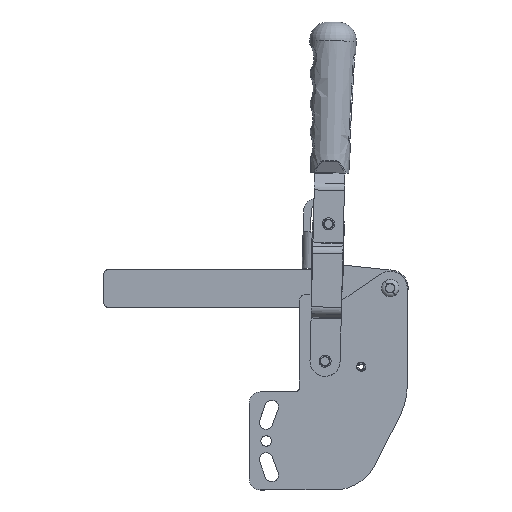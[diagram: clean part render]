
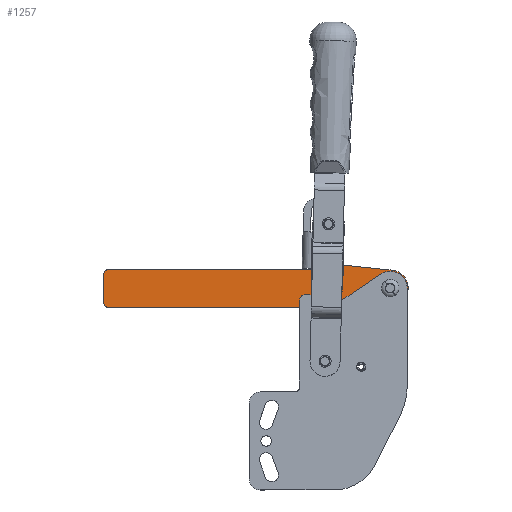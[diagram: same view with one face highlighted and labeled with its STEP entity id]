
A CAD part, top view. The second image highlights one B-rep face of the part: STEP entity #1257.
In plain terms, the highlighted planar face has unit normal (0, 0, 1).
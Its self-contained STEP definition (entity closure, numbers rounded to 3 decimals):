
#27 = CARTESIAN_POINT ( 'NONE',  ( 48., 0., 0. ) ) ;
#96 = ORIENTED_EDGE ( 'NONE', *, *, #781, .T. ) ;
#244 = LINE ( 'NONE', #11025, #20734 ) ;
#630 = CIRCLE ( 'NONE', #15458, 6. ) ;
#767 = CARTESIAN_POINT ( 'NONE',  ( 46.228, -13.846, 0. ) ) ;
#781 = EDGE_CURVE ( 'NONE', #9876, #5087, #15355, .T. ) ;
#918 = VERTEX_POINT ( 'NONE', #27 ) ;
#987 = CARTESIAN_POINT ( 'NONE',  ( 190., 9.5, 0. ) ) ;
#1257 = ADVANCED_FACE ( 'NONE', ( #5780, #1950, #21303 ), #3577, .F. ) ;
#1401 = CARTESIAN_POINT ( 'NONE',  ( 36.535, 15.912, 0. ) ) ;
#1420 = AXIS2_PLACEMENT_3D ( 'NONE', #3205, #22460, #4839 ) ;
#1754 = DIRECTION ( 'NONE',  ( -1., 0., 0. ) ) ;
#1950 = FACE_BOUND ( 'NONE', #2667, .T. ) ;
#2411 = CARTESIAN_POINT ( 'NONE',  ( -6., 0., 0. ) ) ;
#2419 = VERTEX_POINT ( 'NONE', #1401 ) ;
#2542 = ORIENTED_EDGE ( 'NONE', *, *, #7101, .T. ) ;
#2667 = EDGE_LOOP ( 'NONE', ( #4671, #10221 ) ) ;
#2760 = DIRECTION ( 'NONE',  ( 0., 0., 1. ) ) ;
#2828 = DIRECTION ( 'NONE',  ( 0.995, -0.105, 0. ) ) ;
#2873 = CARTESIAN_POINT ( 'NONE',  ( 51.239, -22.5, 0. ) ) ;
#3170 = ORIENTED_EDGE ( 'NONE', *, *, #22835, .T. ) ;
#3205 = CARTESIAN_POINT ( 'NONE',  ( 187., 9.5, 0. ) ) ;
#3577 = PLANE ( 'NONE',  #8979 ) ;
#3929 = DIRECTION ( 'NONE',  ( 0., 0., -1. ) ) ;
#4356 = DIRECTION ( 'NONE',  ( 0., 0., 1. ) ) ;
#4369 = AXIS2_PLACEMENT_3D ( 'NONE', #15022, #4356, #9578 ) ;
#4448 = AXIS2_PLACEMENT_3D ( 'NONE', #7249, #5523, #17816 ) ;
#4671 = ORIENTED_EDGE ( 'NONE', *, *, #7048, .F. ) ;
#4674 = CARTESIAN_POINT ( 'NONE',  ( 190., -9.5, 0. ) ) ;
#4783 = AXIS2_PLACEMENT_3D ( 'NONE', #13825, #13938, #20657 ) ;
#4832 = CARTESIAN_POINT ( 'NONE',  ( 6., 0., 0. ) ) ;
#4839 = DIRECTION ( 'NONE',  ( -1., 0., 0. ) ) ;
#4880 = ORIENTED_EDGE ( 'NONE', *, *, #12782, .T. ) ;
#5087 = VERTEX_POINT ( 'NONE', #9883 ) ;
#5255 = ORIENTED_EDGE ( 'NONE', *, *, #8933, .T. ) ;
#5262 = CARTESIAN_POINT ( 'NONE',  ( 187., -9.5, 0. ) ) ;
#5329 = EDGE_CURVE ( 'NONE', #22771, #8676, #22621, .T. ) ;
#5452 = VERTEX_POINT ( 'NONE', #21457 ) ;
#5472 = CIRCLE ( 'NONE', #8432, 12. ) ;
#5523 = DIRECTION ( 'NONE',  ( 0., 0., 1. ) ) ;
#5588 = CARTESIAN_POINT ( 'NONE',  ( 38.21, 0., 0. ) ) ;
#5780 = FACE_BOUND ( 'NONE', #6025, .T. ) ;
#5936 = EDGE_CURVE ( 'NONE', #8344, #19545, #12999, .T. ) ;
#6003 = CARTESIAN_POINT ( 'NONE',  ( 187., -12.5, 0. ) ) ;
#6025 = EDGE_LOOP ( 'NONE', ( #19232, #8790 ) ) ;
#6122 = DIRECTION ( 'NONE',  ( 1., 0., 0. ) ) ;
#6348 = EDGE_CURVE ( 'NONE', #16268, #918, #630, .T. ) ;
#6499 = AXIS2_PLACEMENT_3D ( 'NONE', #9608, #2760, #6122 ) ;
#6544 = CARTESIAN_POINT ( 'NONE',  ( -1.256, 11.934, 0. ) ) ;
#6775 = DIRECTION ( 'NONE',  ( 1., 0., 0. ) ) ;
#6981 = VERTEX_POINT ( 'NONE', #2411 ) ;
#7017 = VERTEX_POINT ( 'NONE', #6003 ) ;
#7048 = EDGE_CURVE ( 'NONE', #918, #16268, #8802, .T. ) ;
#7101 = EDGE_CURVE ( 'NONE', #5452, #9876, #5472, .T. ) ;
#7151 = EDGE_LOOP ( 'NONE', ( #4880, #13762, #8124, #3170, #20884, #2542, #96, #5255, #14390, #22286, #7243, #7485 ) ) ;
#7159 = VERTEX_POINT ( 'NONE', #987 ) ;
#7225 = CARTESIAN_POINT ( 'NONE',  ( 46.228, 13.846, 0. ) ) ;
#7243 = ORIENTED_EDGE ( 'NONE', *, *, #17294, .T. ) ;
#7249 = CARTESIAN_POINT ( 'NONE',  ( 0., 0., 0. ) ) ;
#7377 = CIRCLE ( 'NONE', #4783, 16. ) ;
#7485 = ORIENTED_EDGE ( 'NONE', *, *, #21507, .T. ) ;
#7711 = DIRECTION ( 'NONE',  ( 0., 0., 1. ) ) ;
#7858 = EDGE_CURVE ( 'NONE', #15520, #6981, #15046, .T. ) ;
#7949 = VECTOR ( 'NONE', #6775, 1000. ) ;
#8091 = CARTESIAN_POINT ( 'NONE',  ( -1.256, -11.934, 0. ) ) ;
#8124 = ORIENTED_EDGE ( 'NONE', *, *, #5329, .T. ) ;
#8301 = DIRECTION ( 'NONE',  ( -0.995, -0.105, 0. ) ) ;
#8344 = VERTEX_POINT ( 'NONE', #767 ) ;
#8375 = CARTESIAN_POINT ( 'NONE',  ( 42., 0., 0. ) ) ;
#8432 = AXIS2_PLACEMENT_3D ( 'NONE', #16654, #16994, #21986 ) ;
#8482 = DIRECTION ( 'NONE',  ( -1., 0., 0. ) ) ;
#8676 = VERTEX_POINT ( 'NONE', #7225 ) ;
#8790 = ORIENTED_EDGE ( 'NONE', *, *, #10923, .F. ) ;
#8802 = CIRCLE ( 'NONE', #4369, 6. ) ;
#8933 = EDGE_CURVE ( 'NONE', #5087, #8344, #7377, .T. ) ;
#8979 = AXIS2_PLACEMENT_3D ( 'NONE', #17721, #3929, #22949 ) ;
#9186 = CARTESIAN_POINT ( 'NONE',  ( 190., -9.5, 0. ) ) ;
#9578 = DIRECTION ( 'NONE',  ( 1., 0., 0. ) ) ;
#9608 = CARTESIAN_POINT ( 'NONE',  ( 0., 0., 0. ) ) ;
#9678 = AXIS2_PLACEMENT_3D ( 'NONE', #2873, #16562, #18642 ) ;
#9790 = DIRECTION ( 'NONE',  ( 0., 1., 0. ) ) ;
#9876 = VERTEX_POINT ( 'NONE', #8091 ) ;
#9883 = CARTESIAN_POINT ( 'NONE',  ( 36.535, -15.912, 0. ) ) ;
#9966 = CARTESIAN_POINT ( 'NONE',  ( 36., 0., 0. ) ) ;
#10010 = LINE ( 'NONE', #4674, #22497 ) ;
#10093 = VERTEX_POINT ( 'NONE', #18362 ) ;
#10221 = ORIENTED_EDGE ( 'NONE', *, *, #6348, .F. ) ;
#10244 = CARTESIAN_POINT ( 'NONE',  ( -1.256, -11.934, 0. ) ) ;
#10376 = AXIS2_PLACEMENT_3D ( 'NONE', #5588, #12672, #1754 ) ;
#10657 = CIRCLE ( 'NONE', #13625, 3. ) ;
#10680 = DIRECTION ( 'NONE',  ( -1., 0., 0. ) ) ;
#10923 = EDGE_CURVE ( 'NONE', #6981, #15520, #13333, .T. ) ;
#11025 = CARTESIAN_POINT ( 'NONE',  ( 51.239, 12.5, 0. ) ) ;
#11420 = CIRCLE ( 'NONE', #1420, 3. ) ;
#11864 = CIRCLE ( 'NONE', #10376, 16. ) ;
#12293 = AXIS2_PLACEMENT_3D ( 'NONE', #13703, #20778, #8482 ) ;
#12672 = DIRECTION ( 'NONE',  ( 0., 0., 1. ) ) ;
#12782 = EDGE_CURVE ( 'NONE', #7159, #10093, #11420, .T. ) ;
#12999 = CIRCLE ( 'NONE', #9678, 10. ) ;
#13333 = CIRCLE ( 'NONE', #4448, 6. ) ;
#13625 = AXIS2_PLACEMENT_3D ( 'NONE', #5262, #14078, #21142 ) ;
#13703 = CARTESIAN_POINT ( 'NONE',  ( 51.239, 22.5, 0. ) ) ;
#13762 = ORIENTED_EDGE ( 'NONE', *, *, #22815, .T. ) ;
#13825 = CARTESIAN_POINT ( 'NONE',  ( 38.21, 0., 0. ) ) ;
#13938 = DIRECTION ( 'NONE',  ( 0., 0., 1. ) ) ;
#14078 = DIRECTION ( 'NONE',  ( 0., 0., 1. ) ) ;
#14390 = ORIENTED_EDGE ( 'NONE', *, *, #5936, .T. ) ;
#14529 = EDGE_CURVE ( 'NONE', #19545, #7017, #17333, .T. ) ;
#15022 = CARTESIAN_POINT ( 'NONE',  ( 42., 0., 0. ) ) ;
#15046 = CIRCLE ( 'NONE', #6499, 6. ) ;
#15355 = LINE ( 'NONE', #10244, #18953 ) ;
#15458 = AXIS2_PLACEMENT_3D ( 'NONE', #8375, #7711, #16435 ) ;
#15520 = VERTEX_POINT ( 'NONE', #4832 ) ;
#15832 = VECTOR ( 'NONE', #8301, 1000. ) ;
#16268 = VERTEX_POINT ( 'NONE', #9966 ) ;
#16435 = DIRECTION ( 'NONE',  ( 1., 0., 0. ) ) ;
#16562 = DIRECTION ( 'NONE',  ( 0., 0., -1. ) ) ;
#16654 = CARTESIAN_POINT ( 'NONE',  ( 0., 0., 0. ) ) ;
#16994 = DIRECTION ( 'NONE',  ( 0., 0., 1. ) ) ;
#17294 = EDGE_CURVE ( 'NONE', #7017, #22788, #10657, .T. ) ;
#17333 = LINE ( 'NONE', #20693, #7949 ) ;
#17721 = CARTESIAN_POINT ( 'NONE',  ( 187., 9.5, 0. ) ) ;
#17816 = DIRECTION ( 'NONE',  ( 1., 0., 0. ) ) ;
#18362 = CARTESIAN_POINT ( 'NONE',  ( 187., 12.5, 0. ) ) ;
#18642 = DIRECTION ( 'NONE',  ( 1., 0., 0. ) ) ;
#18953 = VECTOR ( 'NONE', #2828, 1000. ) ;
#19232 = ORIENTED_EDGE ( 'NONE', *, *, #7858, .F. ) ;
#19545 = VERTEX_POINT ( 'NONE', #21179 ) ;
#20657 = DIRECTION ( 'NONE',  ( 1., 0., 0. ) ) ;
#20693 = CARTESIAN_POINT ( 'NONE',  ( 51.239, -12.5, 0. ) ) ;
#20734 = VECTOR ( 'NONE', #10680, 1000. ) ;
#20778 = DIRECTION ( 'NONE',  ( 0., 0., -1. ) ) ;
#20884 = ORIENTED_EDGE ( 'NONE', *, *, #21165, .T. ) ;
#21142 = DIRECTION ( 'NONE',  ( 1., 0., 0. ) ) ;
#21165 = EDGE_CURVE ( 'NONE', #2419, #5452, #22444, .T. ) ;
#21179 = CARTESIAN_POINT ( 'NONE',  ( 51.239, -12.5, 0. ) ) ;
#21303 = FACE_OUTER_BOUND ( 'NONE', #7151, .T. ) ;
#21339 = CARTESIAN_POINT ( 'NONE',  ( 51.239, 12.5, 0. ) ) ;
#21457 = CARTESIAN_POINT ( 'NONE',  ( -1.256, 11.934, 0. ) ) ;
#21507 = EDGE_CURVE ( 'NONE', #22788, #7159, #10010, .T. ) ;
#21986 = DIRECTION ( 'NONE',  ( 1., 0., 0. ) ) ;
#22286 = ORIENTED_EDGE ( 'NONE', *, *, #14529, .T. ) ;
#22444 = LINE ( 'NONE', #6544, #15832 ) ;
#22460 = DIRECTION ( 'NONE',  ( 0., 0., 1. ) ) ;
#22497 = VECTOR ( 'NONE', #9790, 1000. ) ;
#22621 = CIRCLE ( 'NONE', #12293, 10. ) ;
#22771 = VERTEX_POINT ( 'NONE', #21339 ) ;
#22788 = VERTEX_POINT ( 'NONE', #9186 ) ;
#22815 = EDGE_CURVE ( 'NONE', #10093, #22771, #244, .T. ) ;
#22835 = EDGE_CURVE ( 'NONE', #8676, #2419, #11864, .T. ) ;
#22949 = DIRECTION ( 'NONE',  ( 0., -1., 0. ) ) ;
